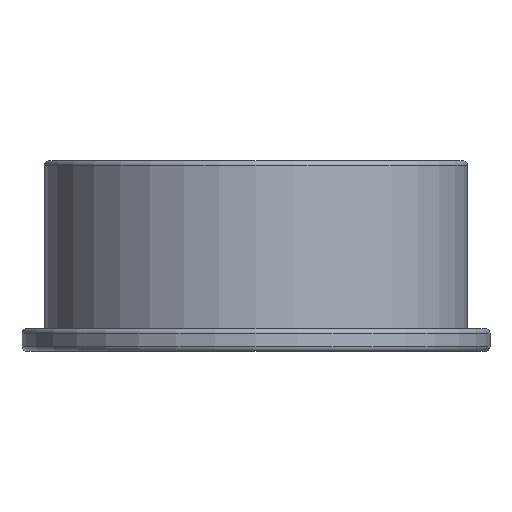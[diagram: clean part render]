
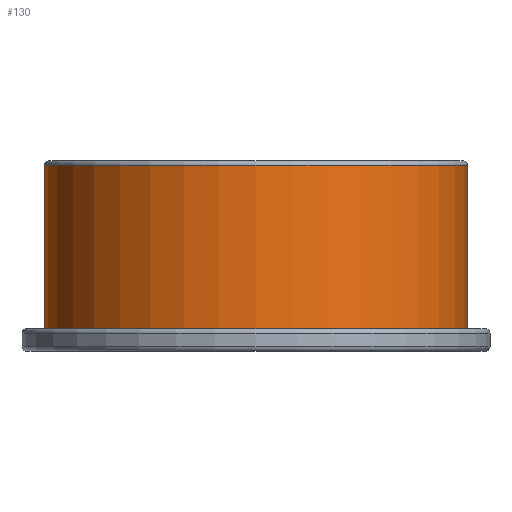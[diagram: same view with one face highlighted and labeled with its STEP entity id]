
A CAD part, front view. The second image highlights one B-rep face of the part: STEP entity #130.
In plain terms, the highlighted cylindrical face has radius 24.003 mm (diameter 48.006 mm), a full revolution.
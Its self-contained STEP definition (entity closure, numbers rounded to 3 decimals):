
#28=ORIENTED_EDGE('',*,*,#50,.T.);
#29=ORIENTED_EDGE('',*,*,#51,.F.);
#50=EDGE_CURVE('',#61,#61,#72,.T.);
#51=EDGE_CURVE('',#62,#62,#73,.T.);
#61=VERTEX_POINT('',#225);
#62=VERTEX_POINT('',#227);
#72=CIRCLE('',#155,24.003);
#73=CIRCLE('',#156,24.003);
#83=EDGE_LOOP('',(#28));
#84=EDGE_LOOP('',(#29));
#105=FACE_BOUND('',#83,.T.);
#106=FACE_BOUND('',#84,.T.);
#127=CYLINDRICAL_SURFACE('',#154,24.003);
#130=ADVANCED_FACE('',(#105,#106),#127,.T.);
#154=AXIS2_PLACEMENT_3D('',#223,#178,#179);
#155=AXIS2_PLACEMENT_3D('',#224,#180,#181);
#156=AXIS2_PLACEMENT_3D('',#226,#182,#183);
#178=DIRECTION('',(0.,0.,-1.));
#179=DIRECTION('',(-1.,0.,0.));
#180=DIRECTION('',(0.,0.,-1.));
#181=DIRECTION('',(-1.,0.,0.));
#182=DIRECTION('',(0.,0.,-1.));
#183=DIRECTION('',(1.,0.,0.));
#223=CARTESIAN_POINT('',(0.,0.,21.59));
#224=CARTESIAN_POINT('',(0.,0.,21.082));
#225=CARTESIAN_POINT('',(-24.003,0.,21.082));
#226=CARTESIAN_POINT('',(0.,0.,2.54));
#227=CARTESIAN_POINT('',(24.003,0.,2.54));
